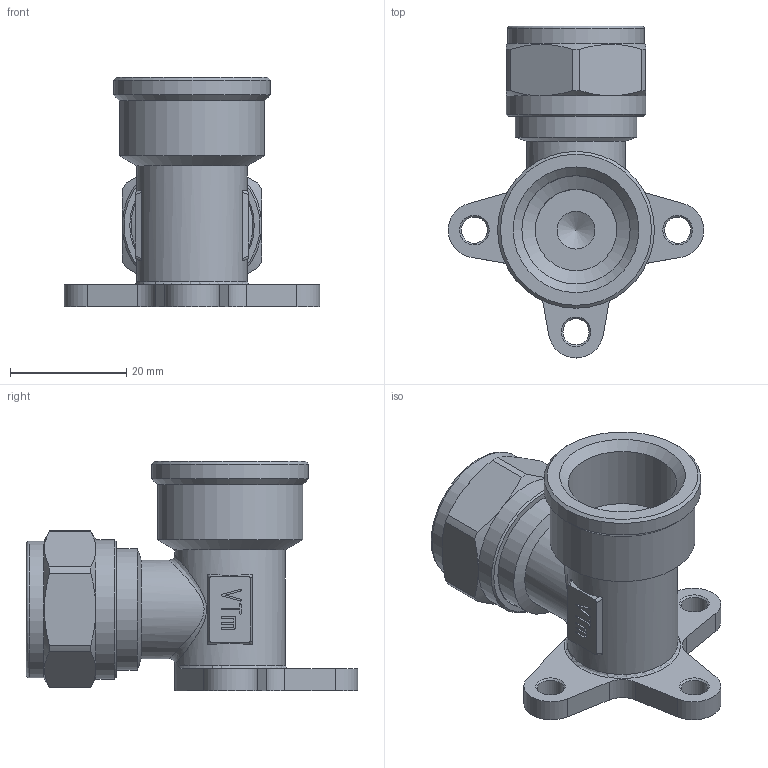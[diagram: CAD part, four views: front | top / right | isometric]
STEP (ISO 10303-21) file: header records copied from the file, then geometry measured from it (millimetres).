
FILE_DESCRIPTION(('STEP AP203'), '1');
FILE_NAME('VTm.354.N.001604', '', ('UNSPECIFIED'), ('UNSPECIFIED'), 'C3D Converter', 'C3D Toolkit', '');
FILE_SCHEMA(('CONFIG_CONTROL_DESIGN'));
Length unit declared in the file: millimetre
Products named in the file (1): ВР.302635.115.000 СБ
Bounding box: 43.99 x 57.11 x 39.5 mm (x, y, z)
Volume: 16072.7 mm3; surface area: 12153.6 mm2
Topology: 2 solids, 2 shells, 452 faces, 1226 edges, 806 vertices
Faces by surface type: extrusion 189, plane 154, cylinder 50, cone 30, torus 28, bspline 1
Full cylindrical faces by diameter (mm): 4.5 x3, 8 x1, 11.8 x4, 12.4 x1, 14 x1, 16.2 x1, 16.7 x1, 17 x1, 18.632 x2, 19 x1, 20.955 x1, 23.5 x1, 24 x1, 25 x1, 27 x1
Entity records: 16259 total; most frequent: CARTESIAN_POINT 5916, ORIENTED_EDGE 2336, DIRECTION 1531, EDGE_CURVE 1168, VERTEX_POINT 805, VECTOR 737, B_SPLINE_CURVE_WITH_KNOTS 640, LINE 548
